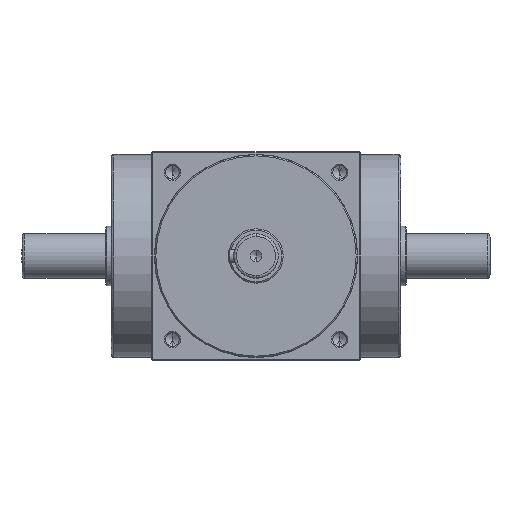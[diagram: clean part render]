
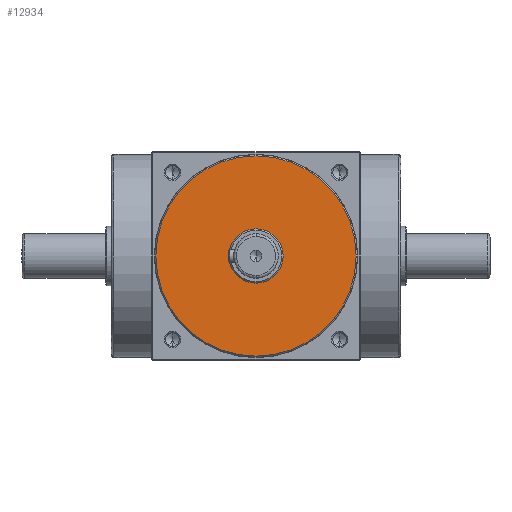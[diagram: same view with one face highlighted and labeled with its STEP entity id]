
A CAD part, front view. The second image highlights one B-rep face of the part: STEP entity #12934.
In plain terms, the highlighted planar face has unit normal (0, -1, 0).
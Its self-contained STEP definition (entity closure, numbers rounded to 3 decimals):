
#268 = EDGE_LOOP ( 'NONE', ( #10808, #4664 ) ) ;
#338 = AXIS2_PLACEMENT_3D ( 'NONE', #1540, #9637, #2697 ) ;
#568 = VERTEX_POINT ( 'NONE', #8829 ) ;
#1540 = CARTESIAN_POINT ( 'NONE',  ( 0., -88., 0. ) ) ;
#2297 = EDGE_CURVE ( 'NONE', #8771, #5513, #10375, .T. ) ;
#2697 = DIRECTION ( 'NONE',  ( 0., 0., 1. ) ) ;
#3153 = AXIS2_PLACEMENT_3D ( 'NONE', #10837, #10788, #10738 ) ;
#3425 = CARTESIAN_POINT ( 'NONE',  ( 0., -88., 0. ) ) ;
#3536 = CIRCLE ( 'NONE', #8603, 35.95 ) ;
#4582 = DIRECTION ( 'NONE',  ( 0., 0., -1. ) ) ;
#4664 = ORIENTED_EDGE ( 'NONE', *, *, #2297, .F. ) ;
#4751 = CARTESIAN_POINT ( 'NONE',  ( 0., -88., -9.75 ) ) ;
#5513 = VERTEX_POINT ( 'NONE', #6987 ) ;
#5563 = CIRCLE ( 'NONE', #7668, 9.75 ) ;
#5600 = AXIS2_PLACEMENT_3D ( 'NONE', #3425, #11511, #4582 ) ;
#5793 = DIRECTION ( 'NONE',  ( 0., 1., 0. ) ) ;
#6108 = EDGE_CURVE ( 'NONE', #568, #9521, #12331, .T. ) ;
#6816 = CARTESIAN_POINT ( 'NONE',  ( 0., -88., 0. ) ) ;
#6987 = CARTESIAN_POINT ( 'NONE',  ( -35.95, -88., 0. ) ) ;
#7443 = FACE_BOUND ( 'NONE', #12917, .T. ) ;
#7668 = AXIS2_PLACEMENT_3D ( 'NONE', #6816, #14852, #7986 ) ;
#7973 = EDGE_CURVE ( 'NONE', #9521, #568, #5563, .T. ) ;
#7986 = DIRECTION ( 'NONE',  ( 0., 0., 1. ) ) ;
#8179 = FACE_OUTER_BOUND ( 'NONE', #268, .T. ) ;
#8603 = AXIS2_PLACEMENT_3D ( 'NONE', #12697, #5793, #13866 ) ;
#8631 = ORIENTED_EDGE ( 'NONE', *, *, #7973, .T. ) ;
#8771 = VERTEX_POINT ( 'NONE', #14503 ) ;
#8829 = CARTESIAN_POINT ( 'NONE',  ( 0., -88., 9.75 ) ) ;
#8843 = ORIENTED_EDGE ( 'NONE', *, *, #6108, .T. ) ;
#9521 = VERTEX_POINT ( 'NONE', #4751 ) ;
#9637 = DIRECTION ( 'NONE',  ( 0., 1., 0. ) ) ;
#10375 = CIRCLE ( 'NONE', #3153, 35.95 ) ;
#10738 = DIRECTION ( 'NONE',  ( -1., 0., 0. ) ) ;
#10788 = DIRECTION ( 'NONE',  ( 0., 1., 0. ) ) ;
#10808 = ORIENTED_EDGE ( 'NONE', *, *, #11507, .F. ) ;
#10837 = CARTESIAN_POINT ( 'NONE',  ( 0., -88., 0. ) ) ;
#11467 = PLANE ( 'NONE',  #5600 ) ;
#11507 = EDGE_CURVE ( 'NONE', #5513, #8771, #3536, .T. ) ;
#11511 = DIRECTION ( 'NONE',  ( 0., -1., 0. ) ) ;
#12331 = CIRCLE ( 'NONE', #338, 9.75 ) ;
#12697 = CARTESIAN_POINT ( 'NONE',  ( 0., -88., 0. ) ) ;
#12917 = EDGE_LOOP ( 'NONE', ( #8843, #8631 ) ) ;
#12934 = ADVANCED_FACE ( 'NONE', ( #7443, #8179 ), #11467, .T. ) ;
#13866 = DIRECTION ( 'NONE',  ( -1., 0., 0. ) ) ;
#14503 = CARTESIAN_POINT ( 'NONE',  ( 35.95, -88., 0. ) ) ;
#14852 = DIRECTION ( 'NONE',  ( 0., 1., 0. ) ) ;
